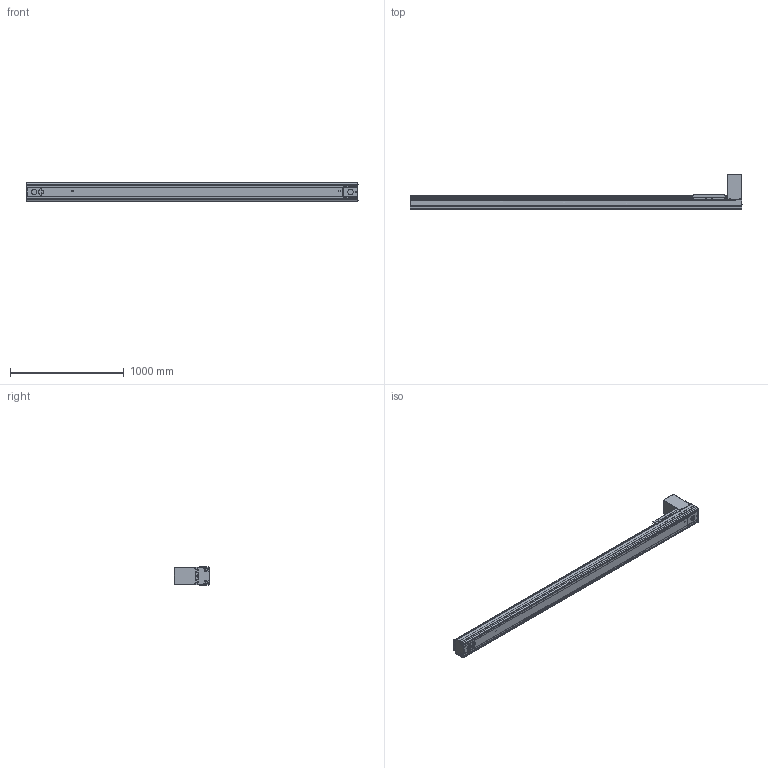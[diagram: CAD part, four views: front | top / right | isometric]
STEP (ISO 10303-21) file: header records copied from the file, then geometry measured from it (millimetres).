
FILE_DESCRIPTION((''),'2;1');
FILE_NAME('BE50G-BT-L19N-P5_IGS_PRT','2017-06-18T',(' '),(''),'PRO/ENGINEER BY PARAMETRIC TECHNOLOGY CORPORATION, 2015030','PRO/ENGINEER BY PARAMETRIC TECHNOLOGY CORPORATION, 2015030','');
FILE_SCHEMA(('CONFIG_CONTROL_DESIGN'));
Products named in the file (1): BE50G-BT-L19N-P5_IGS_PRT
Bounding box: 2920.08 x 309 x 160 mm (x, y, z)
Volume: 11087949.9 mm3; surface area: 5053435.6 mm2
Topology: 9 solids, 282 shells, 2165 faces, 6299 edges, 4328 vertices
Faces by surface type: cylinder 1129, plane 813, cone 180, sphere 23, torus 20
Entity records: 75760 total; most frequent: CARTESIAN_POINT 18009, DIRECTION 11945, ORIENTED_EDGE 11546, EDGE_CURVE 6225, AXIS2_PLACEMENT_3D 4529, VERTEX_POINT 4328, VECTOR 2887, LINE 2887
